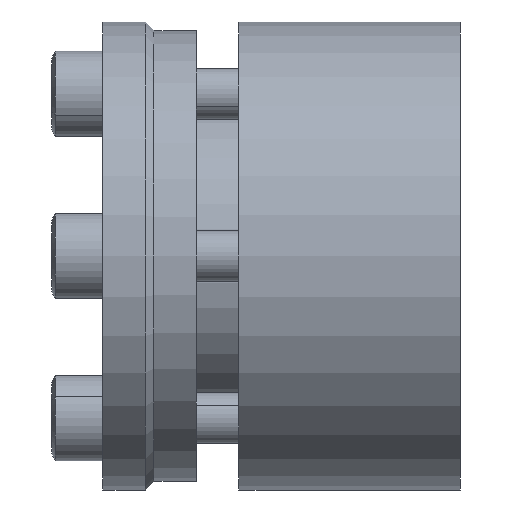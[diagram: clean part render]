
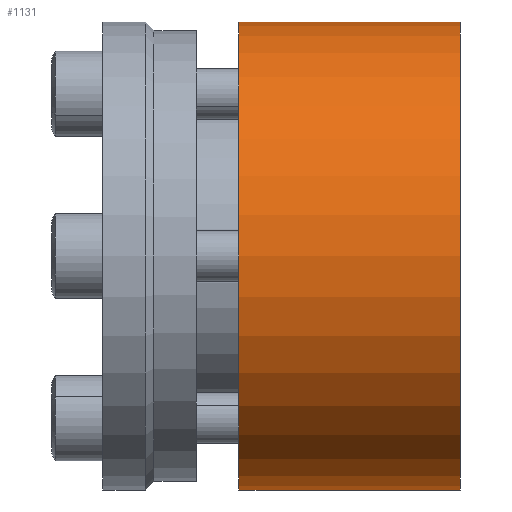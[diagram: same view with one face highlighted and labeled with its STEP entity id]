
A CAD part, front view. The second image highlights one B-rep face of the part: STEP entity #1131.
In plain terms, the highlighted cylindrical face has radius 27.5 mm (diameter 55 mm), a partial arc.
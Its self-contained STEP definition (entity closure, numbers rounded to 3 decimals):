
#921 = VERTEX_POINT ( 'NONE', #3000 ) ;
#922 = VERTEX_POINT ( 'NONE', #2999 ) ;
#924 = EDGE_CURVE ( 'NONE', #922, #925, #2998, .T. ) ;
#925 = VERTEX_POINT ( 'NONE', #2994 ) ;
#928 = VERTEX_POINT ( 'NONE', #2988 ) ;
#930 = EDGE_CURVE ( 'NONE', #921, #928, #2987, .T. ) ;
#957 = EDGE_CURVE ( 'NONE', #922, #921, #3073, .T. ) ;
#1109 = ORIENTED_EDGE ( 'NONE', *, *, #957, .T. ) ;
#1110 = ORIENTED_EDGE ( 'NONE', *, *, #930, .T. ) ;
#1111 = ORIENTED_EDGE ( 'NONE', *, *, #1130, .F. ) ;
#1130 = EDGE_CURVE ( 'NONE', #925, #928, #3274, .T. ) ;
#1131 = ADVANCED_FACE ( 'NONE', ( #3333 ), #3332, .T. ) ;
#1132 = EDGE_LOOP ( 'NONE', ( #1133, #1109, #1110, #1111 ) ) ;
#1133 = ORIENTED_EDGE ( 'NONE', *, *, #924, .F. ) ;
#2984 = DIRECTION ( 'NONE',  ( -1., 0., 0. ) ) ;
#2985 = VECTOR ( 'NONE', #2984, 1000. ) ;
#2986 = CARTESIAN_POINT ( 'NONE',  ( 0., 0., 27.5 ) ) ;
#2987 = LINE ( 'NONE', #2986, #2985 ) ;
#2988 = CARTESIAN_POINT ( 'NONE',  ( 16., 0., 27.5 ) ) ;
#2994 = CARTESIAN_POINT ( 'NONE',  ( 16., 0., -27.5 ) ) ;
#2995 = DIRECTION ( 'NONE',  ( -1., 0., 0. ) ) ;
#2996 = VECTOR ( 'NONE', #2995, 1000. ) ;
#2997 = CARTESIAN_POINT ( 'NONE',  ( 0., 0., -27.5 ) ) ;
#2998 = LINE ( 'NONE', #2997, #2996 ) ;
#2999 = CARTESIAN_POINT ( 'NONE',  ( 42., 0., -27.5 ) ) ;
#3000 = CARTESIAN_POINT ( 'NONE',  ( 42., 0., 27.5 ) ) ;
#3069 = DIRECTION ( 'NONE',  ( 0., 0., 1. ) ) ;
#3070 = DIRECTION ( 'NONE',  ( -1., 0., 0. ) ) ;
#3071 = CARTESIAN_POINT ( 'NONE',  ( 42., 0., 0. ) ) ;
#3072 = AXIS2_PLACEMENT_3D ( 'NONE', #3071, #3070, #3069 ) ;
#3073 = CIRCLE ( 'NONE', #3072, 27.5 ) ;
#3272 = CARTESIAN_POINT ( 'NONE',  ( 16., 0., 0. ) ) ;
#3273 = AXIS2_PLACEMENT_3D ( 'NONE', #3272, #3335, #3334 ) ;
#3274 = CIRCLE ( 'NONE', #3273, 27.5 ) ;
#3327 = DIRECTION ( 'NONE',  ( 0., 0., 1. ) ) ;
#3328 = DIRECTION ( 'NONE',  ( -1., 0., 0. ) ) ;
#3329 = CARTESIAN_POINT ( 'NONE',  ( 0., 0., 0. ) ) ;
#3330 = AXIS2_PLACEMENT_3D ( 'NONE', #3329, #3328, #3327 ) ;
#3332 = CYLINDRICAL_SURFACE ( 'NONE', #3330, 27.5 ) ;
#3333 = FACE_OUTER_BOUND ( 'NONE', #1132, .T. ) ;
#3334 = DIRECTION ( 'NONE',  ( 0., 0., 1. ) ) ;
#3335 = DIRECTION ( 'NONE',  ( -1., 0., 0. ) ) ;
